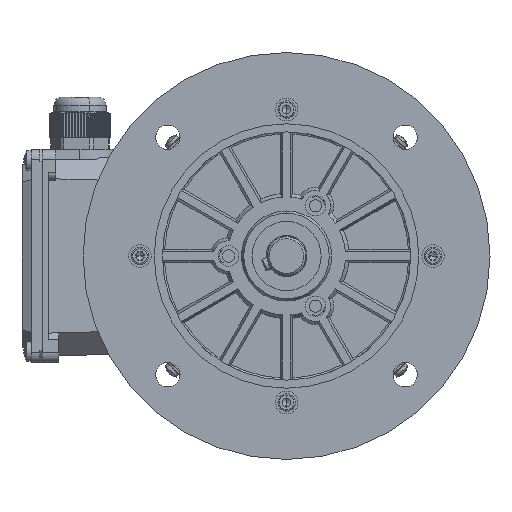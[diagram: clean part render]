
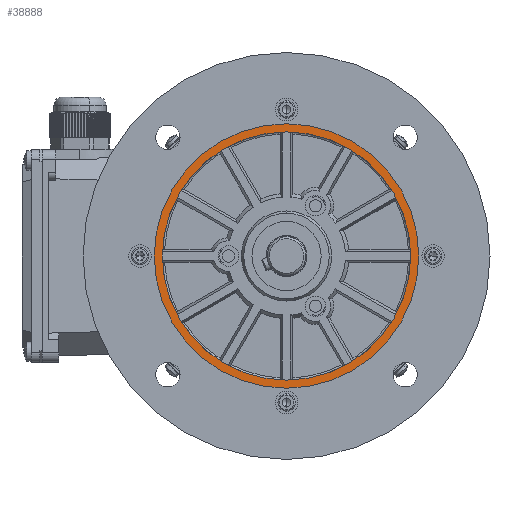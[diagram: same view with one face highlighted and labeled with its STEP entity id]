
A CAD part, left-side view. The second image highlights one B-rep face of the part: STEP entity #38888.
In plain terms, the highlighted planar face has unit normal (-1, 0, 0).
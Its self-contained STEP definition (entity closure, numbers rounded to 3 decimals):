
#1618 = EDGE_CURVE ( 'NONE', #54820, #23226, #62484, .T. ) ;
#2306 = ORIENTED_EDGE ( 'NONE', *, *, #76280, .F. ) ;
#5493 = AXIS2_PLACEMENT_3D ( 'NONE', #70952, #46875, #34820 ) ;
#5514 = DIRECTION ( 'NONE',  ( 0., 0., -1. ) ) ;
#14033 = DIRECTION ( 'NONE',  ( 0., 0., 1. ) ) ;
#17509 = DIRECTION ( 'NONE',  ( 1., 0., 0. ) ) ;
#22267 = AXIS2_PLACEMENT_3D ( 'NONE', #29585, #17509, #5514 ) ;
#23226 = VERTEX_POINT ( 'NONE', #32591 ) ;
#24098 = CIRCLE ( 'NONE', #103203, 65. ) ;
#26077 = DIRECTION ( 'NONE',  ( -1., 0., 0. ) ) ;
#26431 = AXIS2_PLACEMENT_3D ( 'NONE', #38171, #26077, #14033 ) ;
#29078 = EDGE_CURVE ( 'NONE', #23226, #54820, #24098, .T. ) ;
#29585 = CARTESIAN_POINT ( 'NONE',  ( 0., 61., 0. ) ) ;
#32591 = CARTESIAN_POINT ( 'NONE',  ( 0., 0., -65. ) ) ;
#33511 = CARTESIAN_POINT ( 'NONE',  ( 0., 0., -61. ) ) ;
#34820 = DIRECTION ( 'NONE',  ( 0., 0., 1. ) ) ;
#36521 = ORIENTED_EDGE ( 'NONE', *, *, #1618, .T. ) ;
#37500 = FACE_BOUND ( 'NONE', #53731, .T. ) ;
#37878 = EDGE_LOOP ( 'NONE', ( #36521, #86045 ) ) ;
#38171 = CARTESIAN_POINT ( 'NONE',  ( 0., 0., 0. ) ) ;
#38888 = ADVANCED_FACE ( 'NONE', ( #37500, #43532 ), #41654, .F. ) ;
#41654 = PLANE ( 'NONE',  #22267 ) ;
#43532 = FACE_OUTER_BOUND ( 'NONE', #37878, .T. ) ;
#44070 = VERTEX_POINT ( 'NONE', #52810 ) ;
#44809 = DIRECTION ( 'NONE',  ( 0., 0., 1. ) ) ;
#46875 = DIRECTION ( 'NONE',  ( -1., 0., 0. ) ) ;
#50159 = DIRECTION ( 'NONE',  ( 0., 0., 1. ) ) ;
#52810 = CARTESIAN_POINT ( 'NONE',  ( 0., 0., 61. ) ) ;
#53392 = CARTESIAN_POINT ( 'NONE',  ( 0., 0., 65. ) ) ;
#53731 = EDGE_LOOP ( 'NONE', ( #59974, #2306 ) ) ;
#54820 = VERTEX_POINT ( 'NONE', #53392 ) ;
#55421 = VERTEX_POINT ( 'NONE', #33511 ) ;
#56731 = CIRCLE ( 'NONE', #26431, 61. ) ;
#56858 = DIRECTION ( 'NONE',  ( -1., 0., 0. ) ) ;
#59974 = ORIENTED_EDGE ( 'NONE', *, *, #88200, .F. ) ;
#62171 = DIRECTION ( 'NONE',  ( -1., 0., 0. ) ) ;
#62484 = CIRCLE ( 'NONE', #5493, 65. ) ;
#70952 = CARTESIAN_POINT ( 'NONE',  ( 0., 0., 0. ) ) ;
#76280 = EDGE_CURVE ( 'NONE', #55421, #44070, #56731, .T. ) ;
#78579 = CIRCLE ( 'NONE', #91199, 61. ) ;
#80920 = CARTESIAN_POINT ( 'NONE',  ( 0., 0., 0. ) ) ;
#86045 = ORIENTED_EDGE ( 'NONE', *, *, #29078, .T. ) ;
#86284 = CARTESIAN_POINT ( 'NONE',  ( 0., 0., 0. ) ) ;
#88200 = EDGE_CURVE ( 'NONE', #44070, #55421, #78579, .T. ) ;
#91199 = AXIS2_PLACEMENT_3D ( 'NONE', #80920, #56858, #44809 ) ;
#103203 = AXIS2_PLACEMENT_3D ( 'NONE', #86284, #62171, #50159 ) ;
